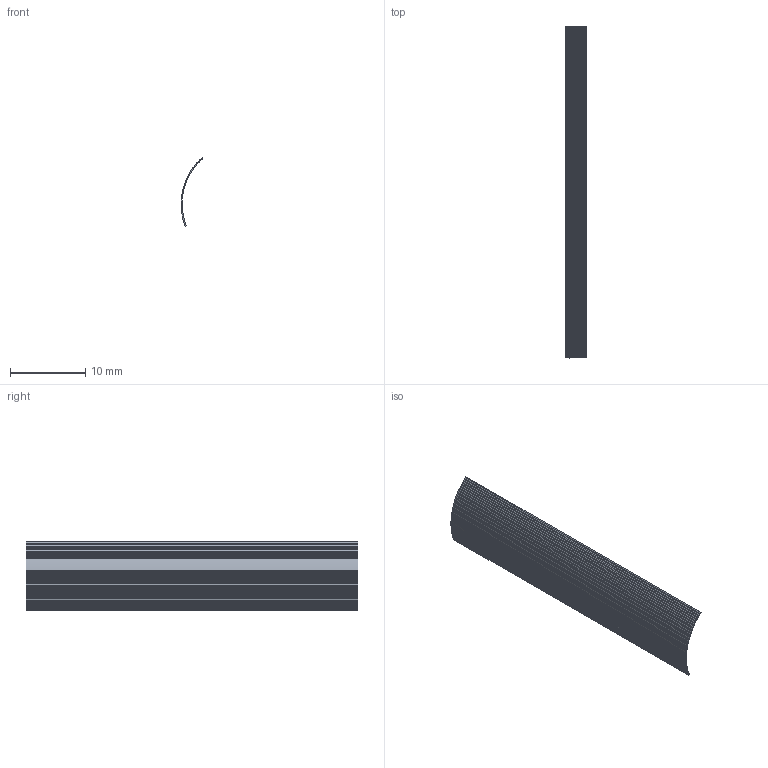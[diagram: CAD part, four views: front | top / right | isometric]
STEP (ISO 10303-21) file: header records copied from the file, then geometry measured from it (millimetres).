
FILE_DESCRIPTION(('Open CASCADE Model'),'2;1');
FILE_NAME('Open CASCADE Shape Model','2026-10-04T02:31:42',('Author'),( 'Open CASCADE'),'Open CASCADE STEP processor 8.0','Open CASCADE 8.0' ,'Unknown');
FILE_SCHEMA(('AUTOMOTIVE_DESIGN { 1 0 10303 214 1 1 1 1 }'));
Length unit declared in the file: millimetre
Products named in the file (1): Open CASCADE STEP translator 8.0 288
Bounding box: 2.89 x 44 x 9.11 mm (x, y, z)
Volume: 65.3 mm3; surface area: 887 mm2
Topology: 1 solids, 1 shells, 144 faces, 426 edges, 284 vertices
Faces by surface type: plane 144
Entity records: 10258 total; most frequent: CARTESIAN_POINT 1707, DIRECTION 1568, LINE 1278, VECTOR 1278, ORIENTED_EDGE 852, PCURVE 852, DEFINITIONAL_REPRESENTATION 852, EDGE_CURVE 426
